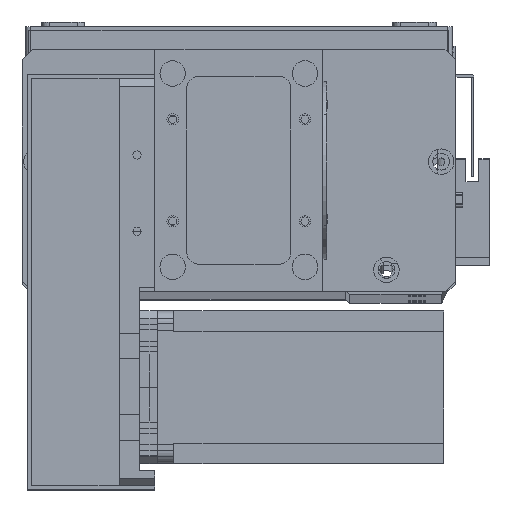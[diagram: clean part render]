
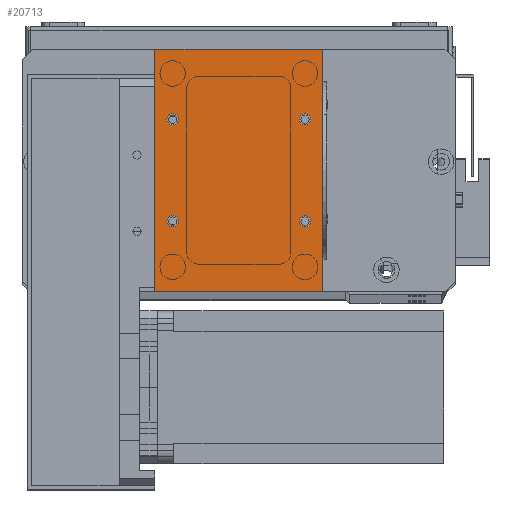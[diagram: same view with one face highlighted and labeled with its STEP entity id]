
A CAD part, top view. The second image highlights one B-rep face of the part: STEP entity #20713.
In plain terms, the highlighted planar face has unit normal (0, 0, 1).
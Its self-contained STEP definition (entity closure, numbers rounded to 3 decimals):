
#567 = CARTESIAN_POINT ( 'NONE',  ( 59., 27.5, 2. ) ) ;
#669 = CARTESIAN_POINT ( 'NONE',  ( 0., 95., 2. ) ) ;
#998 = AXIS2_PLACEMENT_3D ( 'NONE', #2103, #20017, #4643 ) ;
#1022 = DIRECTION ( 'NONE',  ( 0., -1., 0. ) ) ;
#1903 = CARTESIAN_POINT ( 'NONE',  ( 66., 95., 2. ) ) ;
#2103 = CARTESIAN_POINT ( 'NONE',  ( 59., 67.5, 2. ) ) ;
#2527 = AXIS2_PLACEMENT_3D ( 'NONE', #14215, #32210, #16828 ) ;
#3135 = DIRECTION ( 'NONE',  ( 1., 0., 0. ) ) ;
#3517 = EDGE_CURVE ( 'NONE', #15622, #26062, #4487, .T. ) ;
#3668 = EDGE_CURVE ( 'NONE', #12323, #33283, #9688, .T. ) ;
#4002 = VERTEX_POINT ( 'NONE', #1903 ) ;
#4314 = CARTESIAN_POINT ( 'NONE',  ( 4.75, 27.5, 2. ) ) ;
#4487 = CIRCLE ( 'NONE', #8747, 2.25 ) ;
#4537 = ORIENTED_EDGE ( 'NONE', *, *, #12601, .T. ) ;
#4559 = CIRCLE ( 'NONE', #28857, 2.25 ) ;
#4643 = DIRECTION ( 'NONE',  ( 1., 0., 0. ) ) ;
#4884 = CARTESIAN_POINT ( 'NONE',  ( 9.25, 67.5, 2. ) ) ;
#5150 = ORIENTED_EDGE ( 'NONE', *, *, #24949, .T. ) ;
#5254 = LINE ( 'NONE', #669, #24943 ) ;
#5982 = CIRCLE ( 'NONE', #13376, 2.25 ) ;
#6082 = DIRECTION ( 'NONE',  ( 0., 0., 1. ) ) ;
#6149 = CARTESIAN_POINT ( 'NONE',  ( 59., 27.5, 2. ) ) ;
#6363 = ORIENTED_EDGE ( 'NONE', *, *, #30284, .F. ) ;
#6545 = FACE_BOUND ( 'NONE', #14518, .T. ) ;
#7078 = DIRECTION ( 'NONE',  ( 1., 0., 0. ) ) ;
#7613 = DIRECTION ( 'NONE',  ( 0., 0., 1. ) ) ;
#7643 = LINE ( 'NONE', #23956, #20494 ) ;
#7964 = EDGE_CURVE ( 'NONE', #33283, #12323, #12012, .T. ) ;
#8731 = DIRECTION ( 'NONE',  ( 1., 0., 0. ) ) ;
#8747 = AXIS2_PLACEMENT_3D ( 'NONE', #22975, #7613, #25581 ) ;
#8762 = CIRCLE ( 'NONE', #998, 2.25 ) ;
#9150 = CARTESIAN_POINT ( 'NONE',  ( 7., 67.5, 2. ) ) ;
#9688 = CIRCLE ( 'NONE', #24217, 2.25 ) ;
#9983 = DIRECTION ( 'NONE',  ( 0., 1., 0. ) ) ;
#10159 = VECTOR ( 'NONE', #9983, 1000. ) ;
#10300 = CARTESIAN_POINT ( 'NONE',  ( 0., 0., 2. ) ) ;
#10991 = CIRCLE ( 'NONE', #2527, 2.25 ) ;
#11340 = VERTEX_POINT ( 'NONE', #18921 ) ;
#11733 = DIRECTION ( 'NONE',  ( 1., 0., 0. ) ) ;
#12012 = CIRCLE ( 'NONE', #14491, 2.25 ) ;
#12323 = VERTEX_POINT ( 'NONE', #25810 ) ;
#12556 = CARTESIAN_POINT ( 'NONE',  ( 66., 0., 2. ) ) ;
#12572 = FACE_OUTER_BOUND ( 'NONE', #18292, .T. ) ;
#12601 = EDGE_CURVE ( 'NONE', #11340, #4002, #31469, .T. ) ;
#12681 = DIRECTION ( 'NONE',  ( 0., 0., 1. ) ) ;
#12872 = DIRECTION ( 'NONE',  ( 0., 0., -1. ) ) ;
#13376 = AXIS2_PLACEMENT_3D ( 'NONE', #9150, #27105, #11733 ) ;
#14215 = CARTESIAN_POINT ( 'NONE',  ( 59., 67.5, 2. ) ) ;
#14491 = AXIS2_PLACEMENT_3D ( 'NONE', #6149, #24095, #8731 ) ;
#14518 = EDGE_LOOP ( 'NONE', ( #18209, #28836 ) ) ;
#15334 = EDGE_CURVE ( 'NONE', #21173, #30447, #24103, .T. ) ;
#15622 = VERTEX_POINT ( 'NONE', #23971 ) ;
#16224 = EDGE_CURVE ( 'NONE', #30447, #21173, #5982, .T. ) ;
#16474 = ORIENTED_EDGE ( 'NONE', *, *, #17657, .F. ) ;
#16574 = VERTEX_POINT ( 'NONE', #18351 ) ;
#16828 = DIRECTION ( 'NONE',  ( 1., 0., 0. ) ) ;
#17657 = EDGE_CURVE ( 'NONE', #27167, #31052, #8762, .T. ) ;
#18209 = ORIENTED_EDGE ( 'NONE', *, *, #15334, .F. ) ;
#18292 = EDGE_LOOP ( 'NONE', ( #26316, #18977, #4537, #5150 ) ) ;
#18351 = CARTESIAN_POINT ( 'NONE',  ( 0., 0., 2. ) ) ;
#18515 = DIRECTION ( 'NONE',  ( 0., 0., 1. ) ) ;
#18921 = CARTESIAN_POINT ( 'NONE',  ( 66., 0., 2. ) ) ;
#18977 = ORIENTED_EDGE ( 'NONE', *, *, #23923, .T. ) ;
#19144 = CARTESIAN_POINT ( 'NONE',  ( 61.25, 27.5, 2. ) ) ;
#19417 = FACE_BOUND ( 'NONE', #29176, .T. ) ;
#20017 = DIRECTION ( 'NONE',  ( 0., 0., 1. ) ) ;
#20494 = VECTOR ( 'NONE', #1022, 1000. ) ;
#20713 = ADVANCED_FACE ( 'NONE', ( #6545, #26234, #20977, #19417, #12572 ), #25694, .F. ) ;
#20977 = FACE_BOUND ( 'NONE', #32027, .T. ) ;
#21173 = VERTEX_POINT ( 'NONE', #4884 ) ;
#21433 = CARTESIAN_POINT ( 'NONE',  ( 7., 27.5, 2. ) ) ;
#21884 = ORIENTED_EDGE ( 'NONE', *, *, #3668, .F. ) ;
#22454 = CARTESIAN_POINT ( 'NONE',  ( 0., 0., 2. ) ) ;
#22975 = CARTESIAN_POINT ( 'NONE',  ( 7., 27.5, 2. ) ) ;
#22989 = VECTOR ( 'NONE', #7078, 1000. ) ;
#23256 = ORIENTED_EDGE ( 'NONE', *, *, #7964, .F. ) ;
#23676 = EDGE_CURVE ( 'NONE', #26062, #15622, #4559, .T. ) ;
#23923 = EDGE_CURVE ( 'NONE', #16574, #11340, #29852, .T. ) ;
#23956 = CARTESIAN_POINT ( 'NONE',  ( 0., 0., 2. ) ) ;
#23971 = CARTESIAN_POINT ( 'NONE',  ( 9.25, 27.5, 2. ) ) ;
#24026 = DIRECTION ( 'NONE',  ( 1., 0., 0. ) ) ;
#24095 = DIRECTION ( 'NONE',  ( 0., 0., 1. ) ) ;
#24103 = CIRCLE ( 'NONE', #25816, 2.25 ) ;
#24217 = AXIS2_PLACEMENT_3D ( 'NONE', #567, #18515, #3135 ) ;
#24943 = VECTOR ( 'NONE', #28809, 1000. ) ;
#24949 = EDGE_CURVE ( 'NONE', #4002, #26571, #5254, .T. ) ;
#25117 = CARTESIAN_POINT ( 'NONE',  ( 56.75, 67.5, 2. ) ) ;
#25349 = EDGE_CURVE ( 'NONE', #26571, #16574, #7643, .T. ) ;
#25550 = AXIS2_PLACEMENT_3D ( 'NONE', #10300, #12872, #30872 ) ;
#25581 = DIRECTION ( 'NONE',  ( 1., 0., 0. ) ) ;
#25604 = ORIENTED_EDGE ( 'NONE', *, *, #23676, .F. ) ;
#25694 = PLANE ( 'NONE',  #25550 ) ;
#25810 = CARTESIAN_POINT ( 'NONE',  ( 56.75, 27.5, 2. ) ) ;
#25816 = AXIS2_PLACEMENT_3D ( 'NONE', #28066, #12681, #30674 ) ;
#26062 = VERTEX_POINT ( 'NONE', #4314 ) ;
#26234 = FACE_BOUND ( 'NONE', #32020, .T. ) ;
#26316 = ORIENTED_EDGE ( 'NONE', *, *, #25349, .T. ) ;
#26571 = VERTEX_POINT ( 'NONE', #32146 ) ;
#27085 = ORIENTED_EDGE ( 'NONE', *, *, #3517, .F. ) ;
#27105 = DIRECTION ( 'NONE',  ( 0., 0., 1. ) ) ;
#27167 = VERTEX_POINT ( 'NONE', #29724 ) ;
#28066 = CARTESIAN_POINT ( 'NONE',  ( 7., 67.5, 2. ) ) ;
#28809 = DIRECTION ( 'NONE',  ( -1., 0., 0. ) ) ;
#28836 = ORIENTED_EDGE ( 'NONE', *, *, #16224, .F. ) ;
#28857 = AXIS2_PLACEMENT_3D ( 'NONE', #21433, #6082, #24026 ) ;
#29176 = EDGE_LOOP ( 'NONE', ( #27085, #25604 ) ) ;
#29724 = CARTESIAN_POINT ( 'NONE',  ( 61.25, 67.5, 2. ) ) ;
#29852 = LINE ( 'NONE', #22454, #22989 ) ;
#30284 = EDGE_CURVE ( 'NONE', #31052, #27167, #10991, .T. ) ;
#30447 = VERTEX_POINT ( 'NONE', #32905 ) ;
#30674 = DIRECTION ( 'NONE',  ( 1., 0., 0. ) ) ;
#30872 = DIRECTION ( 'NONE',  ( -1., 0., 0. ) ) ;
#31052 = VERTEX_POINT ( 'NONE', #25117 ) ;
#31469 = LINE ( 'NONE', #12556, #10159 ) ;
#32020 = EDGE_LOOP ( 'NONE', ( #16474, #6363 ) ) ;
#32027 = EDGE_LOOP ( 'NONE', ( #23256, #21884 ) ) ;
#32146 = CARTESIAN_POINT ( 'NONE',  ( 0., 95., 2. ) ) ;
#32210 = DIRECTION ( 'NONE',  ( 0., 0., 1. ) ) ;
#32905 = CARTESIAN_POINT ( 'NONE',  ( 4.75, 67.5, 2. ) ) ;
#33283 = VERTEX_POINT ( 'NONE', #19144 ) ;
